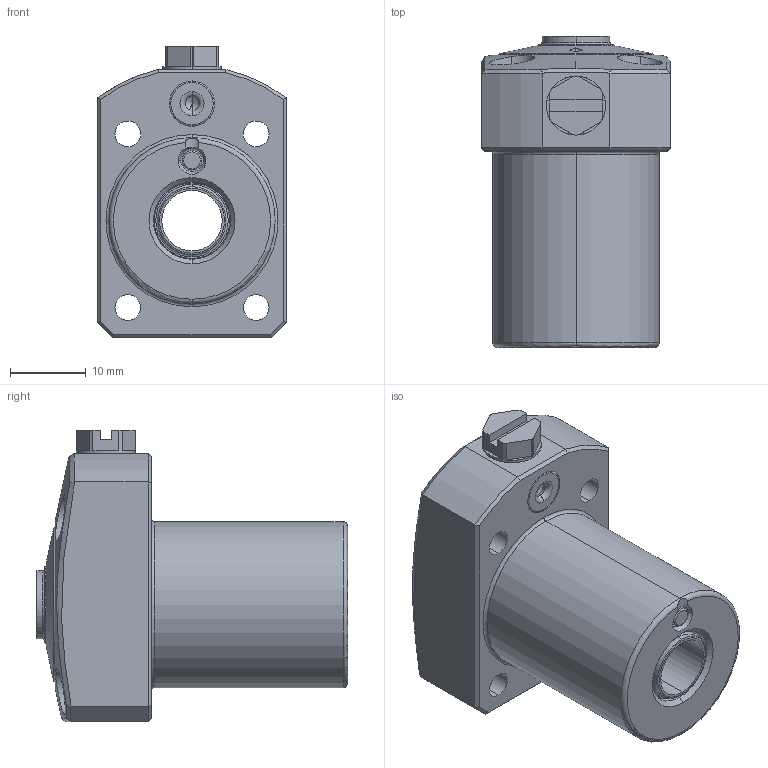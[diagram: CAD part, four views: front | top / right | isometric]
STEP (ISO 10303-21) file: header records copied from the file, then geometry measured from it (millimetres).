
FILE_DESCRIPTION(/* description */ (''),/* implementation_level */ '2;1');
FILE_NAME(/* name */ 'FNE22-C.stp',/* time_stamp */ '2025-10-27T13:54:45+08:00',/* author */ (''),/* organization */ (''),/* preprocessor_version */ 'ST-DEVELOPER v16.7',/* originating_system */ 'SIEMENS PLM Software NX 12.0',/* authorisation */ '');
FILE_SCHEMA (('AUTOMOTIVE_DESIGN { 1 0 10303 214 3 1 1 1 }'));
Length unit declared in the file: millimetre
Products named in the file (5): FNE-22-04; FNE-22-03; FNE-22-02; FNE-22-01; WNA0253-G-D_step
Assembly tree (4 placements, depth 2):
  WNA0253-G-D_step
    FNE-22-01
    FNE-22-02
    FNE-22-03
    FNE-22-04
Bounding box: 25 x 41.2 x 38.6 mm (x, y, z)
Volume: 17856.8 mm3; surface area: 6893.6 mm2
Topology: 4 solids, 4 shells, 163 faces, 374 edges, 227 vertices
Faces by surface type: cylinder 53, plane 50, cone 32, torus 22, bspline 6
Entity records: 5803 total; most frequent: CARTESIAN_POINT 1979, DIRECTION 820, ORIENTED_EDGE 736, EDGE_CURVE 368, AXIS2_PLACEMENT_3D 339, VERTEX_POINT 227, EDGE_LOOP 189, CIRCLE 177
